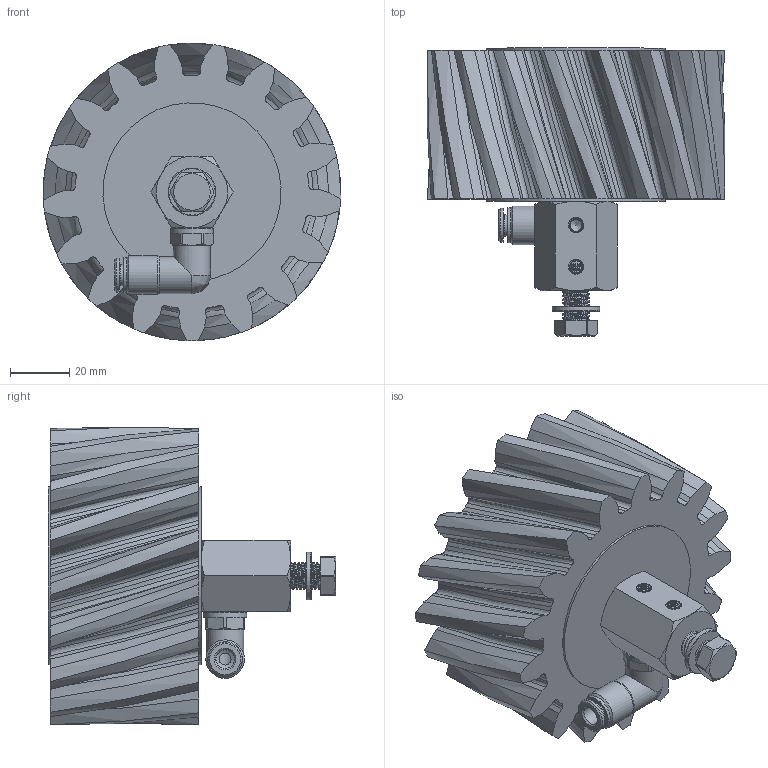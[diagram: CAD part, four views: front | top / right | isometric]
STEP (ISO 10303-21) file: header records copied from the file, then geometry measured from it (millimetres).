
FILE_DESCRIPTION (( 'STEP AP214' ), '1' );
FILE_NAME ('012_13_05_50_17BLZ.STEP', '2026-04-14T08:59:17', ( '' ), ( '' ), 'SwSTEP 2.0', 'SolidWorks 2022', '' );
FILE_SCHEMA (( 'AUTOMOTIVE_DESIGN' ));
Length unit declared in the file: millimetre
Products named in the file (13): Scheibe_hinten_winklige Achse_groß; U_Scheibe_8,4; DR6-C_HDX_25.07.16_1; Modul_5_S_L; 012_06_Senkschraube; 012_13b_02_winklige_Achse_M10_1; 12012_06_01_Scheibe-CRS-VA_60.SLDASM; RIVOLUZIONE_0_2; RH202242; Schraube_M8_20; H202242_HDS022_6_M10X1_08.05.17(1); OR 7.2X1.9_1; 012_13_05_50_17BLZ
Assembly tree (12 placements, depth 3):
  012_13_05_50_17BLZ
    012_13b_02_winklige_Achse_M10_1
    Schraube_M8_20
    U_Scheibe_8,4
    H202242_HDS022_6_M10X1_08.05.17(1)
      OR 7.2X1.9_1
      RH202242
      DR6-C_HDX_25.07.16_1
      RIVOLUZIONE_0_2
    12012_06_01_Scheibe-CRS-VA_60.SLDASM
    Scheibe_hinten_winklige Achse_groß
    012_06_Senkschraube
    Modul_5_S_L
Bounding box: 100.08 x 96.9 x 100.16 mm (x, y, z)
Volume: 339348.2 mm3; surface area: 63489.7 mm2
Topology: 11 solids, 11 shells, 760 faces, 2082 edges, 1380 vertices
Faces by surface type: bspline 354, plane 276, cylinder 71, cone 56, torus 3
Full cylindrical faces by diameter (mm): 4 x3, 6 x1, 6.2 x1, 6.3 x1, 6.5 x1, 7.2 x1, 8.4 x1, 8.5 x1, 9 x10, 9.9 x1, 10 x2, 10.1 x2, 10.3 x1, 11.5 x1, 11.7 x1, 12.5 x2, 13 x1, 14.5 x1, 16 x1, 60 x2
Entity records: 80679 total; most frequent: CARTESIAN_POINT 63375, ORIENTED_EDGE 3866, DIRECTION 2178, EDGE_CURVE 1933, VERTEX_POINT 1314, VECTOR 994, LINE 994, EDGE_LOOP 879
